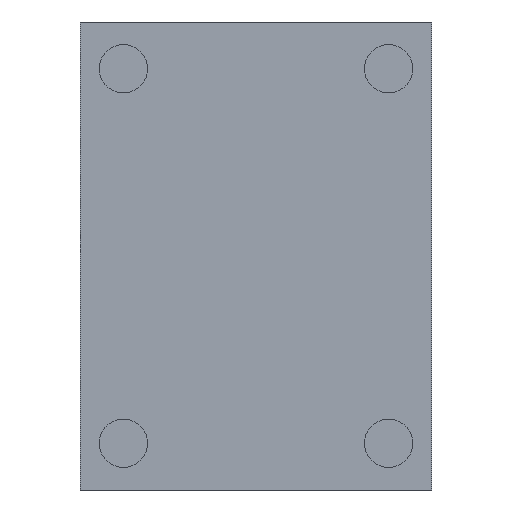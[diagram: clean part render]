
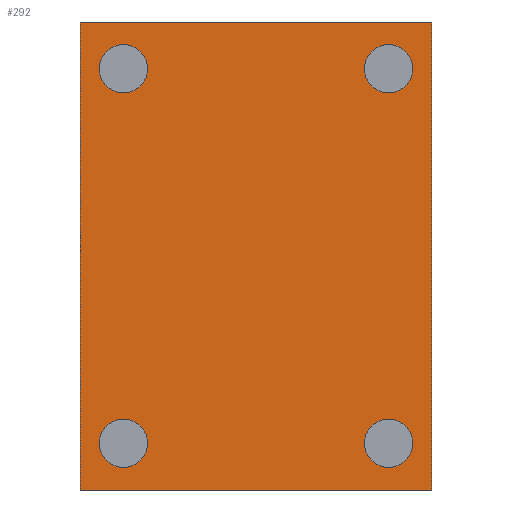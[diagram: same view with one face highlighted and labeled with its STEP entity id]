
A CAD part, front view. The second image highlights one B-rep face of the part: STEP entity #292.
In plain terms, the highlighted planar face has unit normal (0, -1, 0).
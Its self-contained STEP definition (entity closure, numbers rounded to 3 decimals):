
#1=CARTESIAN_POINT('',(17.,0.,24.));
#2=DIRECTION('',(0.,1.,0.));
#3=DIRECTION('',(-1.,0.,0.));
#4=AXIS2_PLACEMENT_3D('',#1,#2,#3);
#6=CARTESIAN_POINT('',(17.,0.,24.));
#7=DIRECTION('',(0.,1.,0.));
#8=DIRECTION('',(1.,0.,0.));
#9=AXIS2_PLACEMENT_3D('',#6,#7,#8);
#11=CARTESIAN_POINT('',(-17.,0.,24.));
#12=DIRECTION('',(0.,-1.,0.));
#13=DIRECTION('',(1.,0.,0.));
#14=AXIS2_PLACEMENT_3D('',#11,#12,#13);
#16=CARTESIAN_POINT('',(-17.,0.,24.));
#17=DIRECTION('',(0.,-1.,0.));
#18=DIRECTION('',(-1.,0.,0.));
#19=AXIS2_PLACEMENT_3D('',#16,#17,#18);
#21=CARTESIAN_POINT('',(-17.,0.,-24.));
#22=DIRECTION('',(0.,1.,0.));
#23=DIRECTION('',(1.,0.,0.));
#24=AXIS2_PLACEMENT_3D('',#21,#22,#23);
#26=CARTESIAN_POINT('',(-17.,0.,-24.));
#27=DIRECTION('',(0.,1.,0.));
#28=DIRECTION('',(-1.,0.,0.));
#29=AXIS2_PLACEMENT_3D('',#26,#27,#28);
#31=CARTESIAN_POINT('',(17.,0.,-24.));
#32=DIRECTION('',(0.,-1.,0.));
#33=DIRECTION('',(-1.,0.,0.));
#34=AXIS2_PLACEMENT_3D('',#31,#32,#33);
#36=CARTESIAN_POINT('',(17.,0.,-24.));
#37=DIRECTION('',(0.,-1.,0.));
#38=DIRECTION('',(1.,0.,0.));
#39=AXIS2_PLACEMENT_3D('',#36,#37,#38);
#132=CARTESIAN_POINT('',(-22.5,0.,30.));
#134=DIRECTION('',(0.,0.,-1.));
#135=VECTOR('',#134,60.);
#136=CARTESIAN_POINT('',(-22.5,0.,30.));
#137=LINE('',#136,#135);
#153=CARTESIAN_POINT('',(-22.5,0.,-30.));
#155=DIRECTION('',(0.,0.,1.));
#156=VECTOR('',#155,60.);
#157=CARTESIAN_POINT('',(22.5,0.,-30.));
#158=LINE('',#157,#156);
#174=CARTESIAN_POINT('',(22.5,0.,30.));
#195=CARTESIAN_POINT('',(22.5,0.,-30.));
#201=DIRECTION('',(1.,0.,0.));
#202=VECTOR('',#201,45.);
#203=CARTESIAN_POINT('',(-22.5,0.,30.));
#204=LINE('',#203,#202);
#209=DIRECTION('',(1.,0.,0.));
#210=VECTOR('',#209,45.);
#211=CARTESIAN_POINT('',(-22.5,0.,-30.));
#212=LINE('',#211,#210);
#214=VERTEX_POINT('',#195);
#219=CARTESIAN_POINT('',(13.9,0.,-24.));
#220=CARTESIAN_POINT('',(20.1,0.,-24.));
#221=VERTEX_POINT('',#219);
#222=VERTEX_POINT('',#220);
#224=VERTEX_POINT('',#153);
#229=CARTESIAN_POINT('',(-13.9,0.,-24.));
#230=CARTESIAN_POINT('',(-20.1,0.,-24.));
#231=VERTEX_POINT('',#229);
#232=VERTEX_POINT('',#230);
#234=VERTEX_POINT('',#174);
#239=CARTESIAN_POINT('',(13.9,0.,24.));
#240=CARTESIAN_POINT('',(20.1,0.,24.));
#241=VERTEX_POINT('',#239);
#242=VERTEX_POINT('',#240);
#244=VERTEX_POINT('',#132);
#249=CARTESIAN_POINT('',(-13.9,0.,24.));
#250=CARTESIAN_POINT('',(-20.1,0.,24.));
#251=VERTEX_POINT('',#249);
#252=VERTEX_POINT('',#250);
#253=CARTESIAN_POINT('',(0.,0.,0.));
#254=DIRECTION('',(0.,1.,0.));
#255=DIRECTION('',(1.,0.,0.));
#256=AXIS2_PLACEMENT_3D('',#253,#254,#255);
#257=PLANE('',#256);
#259=ORIENTED_EDGE('',*,*,#258,.F.);
#261=ORIENTED_EDGE('',*,*,#260,.T.);
#263=ORIENTED_EDGE('',*,*,#262,.F.);
#265=ORIENTED_EDGE('',*,*,#264,.F.);
#266=EDGE_LOOP('',(#259,#261,#263,#265));
#267=FACE_OUTER_BOUND('',#266,.F.);
#269=ORIENTED_EDGE('',*,*,#268,.F.);
#271=ORIENTED_EDGE('',*,*,#270,.F.);
#272=EDGE_LOOP('',(#269,#271));
#273=FACE_BOUND('',#272,.F.);
#275=ORIENTED_EDGE('',*,*,#274,.T.);
#277=ORIENTED_EDGE('',*,*,#276,.T.);
#278=EDGE_LOOP('',(#275,#277));
#279=FACE_BOUND('',#278,.F.);
#281=ORIENTED_EDGE('',*,*,#280,.F.);
#283=ORIENTED_EDGE('',*,*,#282,.F.);
#284=EDGE_LOOP('',(#281,#283));
#285=FACE_BOUND('',#284,.F.);
#287=ORIENTED_EDGE('',*,*,#286,.T.);
#289=ORIENTED_EDGE('',*,*,#288,.T.);
#290=EDGE_LOOP('',(#287,#289));
#291=FACE_BOUND('',#290,.F.);
#292=ADVANCED_FACE('',(#267,#273,#279,#285,#291),#257,.F.);
#5=CIRCLE('',#4,3.1);
#10=CIRCLE('',#9,3.1);
#15=CIRCLE('',#14,3.1);
#20=CIRCLE('',#19,3.1);
#25=CIRCLE('',#24,3.1);
#30=CIRCLE('',#29,3.1);
#35=CIRCLE('',#34,3.1);
#40=CIRCLE('',#39,3.1);
#258=EDGE_CURVE('',#244,#224,#137,.T.);
#260=EDGE_CURVE('',#244,#234,#204,.T.);
#262=EDGE_CURVE('',#214,#234,#158,.T.);
#264=EDGE_CURVE('',#224,#214,#212,.T.);
#268=EDGE_CURVE('',#241,#242,#5,.T.);
#270=EDGE_CURVE('',#242,#241,#10,.T.);
#274=EDGE_CURVE('',#251,#252,#15,.T.);
#276=EDGE_CURVE('',#252,#251,#20,.T.);
#280=EDGE_CURVE('',#231,#232,#25,.T.);
#282=EDGE_CURVE('',#232,#231,#30,.T.);
#286=EDGE_CURVE('',#221,#222,#35,.T.);
#288=EDGE_CURVE('',#222,#221,#40,.T.);
